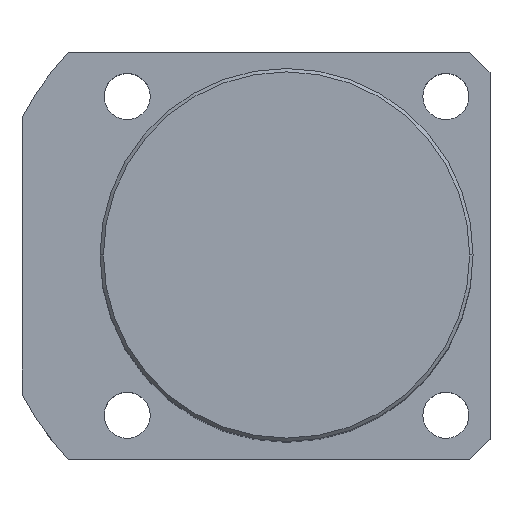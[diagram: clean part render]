
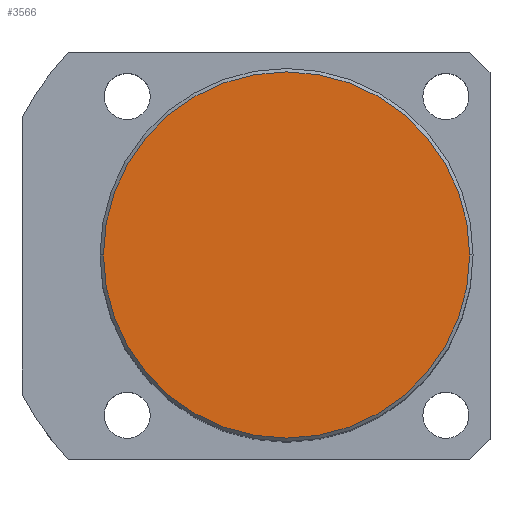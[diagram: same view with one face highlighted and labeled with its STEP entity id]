
A CAD part, top view. The second image highlights one B-rep face of the part: STEP entity #3566.
In plain terms, the highlighted planar face has unit normal (0, 0, 1).
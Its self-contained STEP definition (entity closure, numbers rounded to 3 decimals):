
#48 = CIRCLE ( 'NONE', #4041, 27. ) ;
#93 = EDGE_LOOP ( 'NONE', ( #1900, #2254 ) ) ;
#186 = CIRCLE ( 'NONE', #3308, 27. ) ;
#354 = EDGE_CURVE ( 'NONE', #784, #4187, #186, .T. ) ;
#401 = DIRECTION ( 'NONE',  ( 0., 0., 1. ) ) ;
#483 = DIRECTION ( 'NONE',  ( 0., 0., 1. ) ) ;
#662 = CARTESIAN_POINT ( 'NONE',  ( -27., 0., 85. ) ) ;
#784 = VERTEX_POINT ( 'NONE', #662 ) ;
#1194 = DIRECTION ( 'NONE',  ( 0., 0., 1. ) ) ;
#1212 = FACE_OUTER_BOUND ( 'NONE', #93, .T. ) ;
#1900 = ORIENTED_EDGE ( 'NONE', *, *, #354, .T. ) ;
#2224 = EDGE_CURVE ( 'NONE', #4187, #784, #48, .T. ) ;
#2254 = ORIENTED_EDGE ( 'NONE', *, *, #2224, .T. ) ;
#2730 = AXIS2_PLACEMENT_3D ( 'NONE', #5084, #401, #3125 ) ;
#2809 = CARTESIAN_POINT ( 'NONE',  ( 0., 0., 85. ) ) ;
#3125 = DIRECTION ( 'NONE',  ( 1., 0., 0. ) ) ;
#3211 = DIRECTION ( 'NONE',  ( 1., 0., 0. ) ) ;
#3297 = CARTESIAN_POINT ( 'NONE',  ( 27., 0., 85. ) ) ;
#3308 = AXIS2_PLACEMENT_3D ( 'NONE', #2809, #483, #3211 ) ;
#3534 = CARTESIAN_POINT ( 'NONE',  ( 0., 0., 85. ) ) ;
#3566 = ADVANCED_FACE ( 'NONE', ( #1212 ), #4284, .T. ) ;
#3927 = DIRECTION ( 'NONE',  ( 1., 0., 0. ) ) ;
#4041 = AXIS2_PLACEMENT_3D ( 'NONE', #3534, #1194, #3927 ) ;
#4187 = VERTEX_POINT ( 'NONE', #3297 ) ;
#4284 = PLANE ( 'NONE',  #2730 ) ;
#5084 = CARTESIAN_POINT ( 'NONE',  ( 0., 0., 85. ) ) ;
